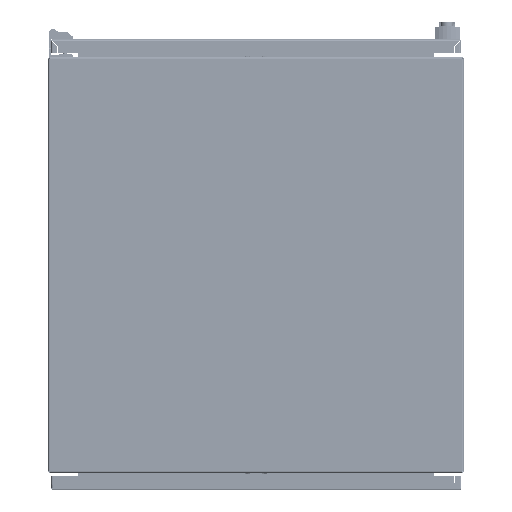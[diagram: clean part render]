
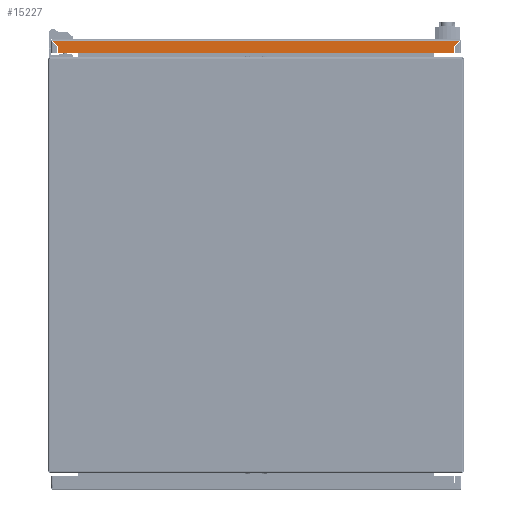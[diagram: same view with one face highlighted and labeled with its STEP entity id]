
A CAD part, front view. The second image highlights one B-rep face of the part: STEP entity #15227.
In plain terms, the highlighted planar face has unit normal (0, -1, 0).
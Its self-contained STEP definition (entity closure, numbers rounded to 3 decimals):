
#15056 = VERTEX_POINT ( 'NONE', #141603 ) ;
#15072 = EDGE_CURVE ( 'NONE', #15074, #15056, #141580, .T. ) ;
#15074 = VERTEX_POINT ( 'NONE', #141568 ) ;
#15227 = ADVANCED_FACE ( 'NONE', ( #142338 ), #142498, .F. ) ;
#15237 = EDGE_LOOP ( 'NONE', ( #15258, #15296, #19849, #15592, #15347, #15361 ) ) ;
#15258 = ORIENTED_EDGE ( 'NONE', *, *, #15266, .T. ) ;
#15266 = EDGE_CURVE ( 'NONE', #15280, #15284, #142523, .T. ) ;
#15280 = VERTEX_POINT ( 'NONE', #142510 ) ;
#15284 = VERTEX_POINT ( 'NONE', #142506 ) ;
#15296 = ORIENTED_EDGE ( 'NONE', *, *, #15306, .F. ) ;
#15306 = EDGE_CURVE ( 'NONE', #15313, #15284, #142703, .T. ) ;
#15313 = VERTEX_POINT ( 'NONE', #142829 ) ;
#15347 = ORIENTED_EDGE ( 'NONE', *, *, #15072, .T. ) ;
#15361 = ORIENTED_EDGE ( 'NONE', *, *, #15363, .T. ) ;
#15363 = EDGE_CURVE ( 'NONE', #15056, #15280, #142985, .T. ) ;
#15559 = EDGE_CURVE ( 'NONE', #15571, #15313, #144096, .T. ) ;
#15571 = VERTEX_POINT ( 'NONE', #144071 ) ;
#15592 = ORIENTED_EDGE ( 'NONE', *, *, #15596, .F. ) ;
#15596 = EDGE_CURVE ( 'NONE', #15074, #15571, #143979, .T. ) ;
#19849 = ORIENTED_EDGE ( 'NONE', *, *, #15559, .F. ) ;
#141568 = CARTESIAN_POINT ( 'NONE',  ( -286.233, 21.5, 306. ) ) ;
#141572 = DIRECTION ( 'NONE',  ( 1., 0., 0. ) ) ;
#141573 = VECTOR ( 'NONE', #141572, 1000. ) ;
#141577 = CARTESIAN_POINT ( 'NONE',  ( -10181., 21.5, 306. ) ) ;
#141580 = LINE ( 'NONE', #141577, #141573 ) ;
#141603 = CARTESIAN_POINT ( 'NONE',  ( 286.233, 21.5, 306. ) ) ;
#142338 = FACE_OUTER_BOUND ( 'NONE', #15237, .T. ) ;
#142488 = DIRECTION ( 'NONE',  ( 0., 0., 1. ) ) ;
#142491 = DIRECTION ( 'NONE',  ( 0., 1., 0. ) ) ;
#142493 = CARTESIAN_POINT ( 'NONE',  ( -10181., 21.5, 306. ) ) ;
#142494 = AXIS2_PLACEMENT_3D ( 'NONE', #142493, #142491, #142488 ) ;
#142498 = PLANE ( 'NONE',  #142494 ) ;
#142506 = CARTESIAN_POINT ( 'NONE',  ( 294.323, 21.5, 323.9 ) ) ;
#142510 = CARTESIAN_POINT ( 'NONE',  ( 286.233, 21.5, 315.81 ) ) ;
#142511 = DIRECTION ( 'NONE',  ( 0.707, 0., 0.707 ) ) ;
#142515 = VECTOR ( 'NONE', #142511, 1000. ) ;
#142519 = CARTESIAN_POINT ( 'NONE',  ( 286.233, 21.5, 315.81 ) ) ;
#142523 = LINE ( 'NONE', #142519, #142515 ) ;
#142693 = DIRECTION ( 'NONE',  ( 1., 0., 0. ) ) ;
#142694 = VECTOR ( 'NONE', #142693, 1000. ) ;
#142697 = CARTESIAN_POINT ( 'NONE',  ( -10181., 21.5, 323.9 ) ) ;
#142703 = LINE ( 'NONE', #142697, #142694 ) ;
#142829 = CARTESIAN_POINT ( 'NONE',  ( -294.323, 21.5, 323.9 ) ) ;
#142981 = VECTOR ( 'NONE', #143212, 1000. ) ;
#142983 = CARTESIAN_POINT ( 'NONE',  ( 286.233, 21.5, 306. ) ) ;
#142985 = LINE ( 'NONE', #142983, #142981 ) ;
#143212 = DIRECTION ( 'NONE',  ( 0., 0., 1. ) ) ;
#143979 = LINE ( 'NONE', #144217, #144211 ) ;
#144071 = CARTESIAN_POINT ( 'NONE',  ( -286.233, 21.5, 315.81 ) ) ;
#144090 = DIRECTION ( 'NONE',  ( -0.707, 0., 0.707 ) ) ;
#144092 = VECTOR ( 'NONE', #144090, 1000. ) ;
#144093 = CARTESIAN_POINT ( 'NONE',  ( -286.233, 21.5, 315.81 ) ) ;
#144096 = LINE ( 'NONE', #144093, #144092 ) ;
#144208 = DIRECTION ( 'NONE',  ( 0., 0., 1. ) ) ;
#144211 = VECTOR ( 'NONE', #144208, 1000. ) ;
#144217 = CARTESIAN_POINT ( 'NONE',  ( -286.233, 21.5, 306. ) ) ;
